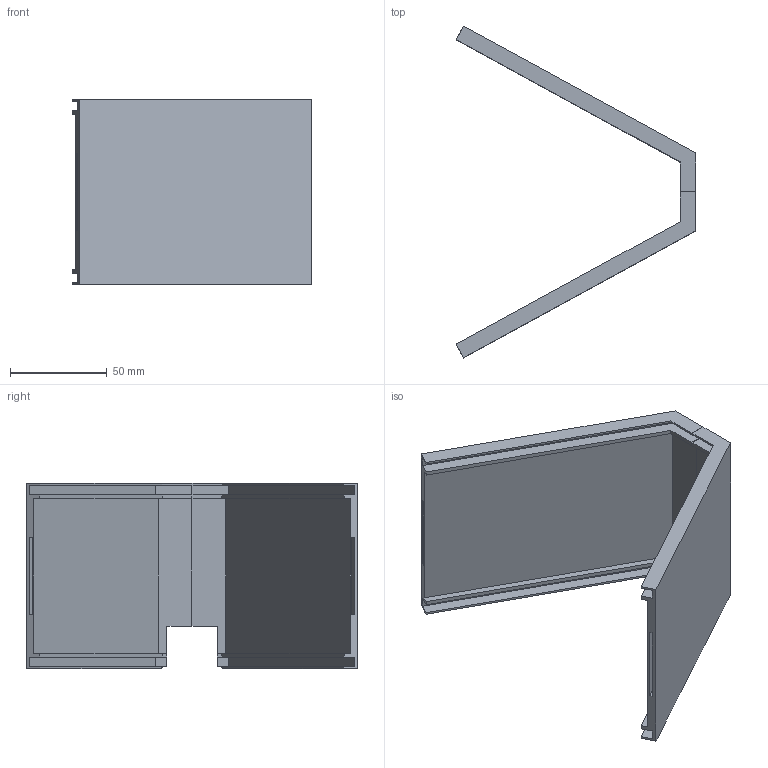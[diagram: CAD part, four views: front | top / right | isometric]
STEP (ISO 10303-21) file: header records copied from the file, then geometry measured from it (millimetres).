
FILE_DESCRIPTION(('STEP AP203'), '1');
FILE_NAME('ðåçîíàòîð 1', '', ('UNSPECIFIED'), ('UNSPECIFIED'), 'ASCON STEP Converter 1.3', 'ASCON Math Kernel', '');
FILE_SCHEMA(('CONFIG_CONTROL_DESIGN'));
Length unit declared in the file: millimetre
Bounding box: 123.7 x 171.39 x 96 mm (x, y, z)
Volume: 110829.1 mm3; surface area: 98651.4 mm2
Topology: 2 solids, 2 shells, 70 faces, 196 edges, 130 vertices
Faces by surface type: plane 68, cylinder 2
Entity records: 2824 total; most frequent: CARTESIAN_POINT 403, ORIENTED_EDGE 392, DIRECTION 338, EDGE_CURVE 196, LINE 192, VECTOR 192, VERTEX_POINT 130, FACE_BOUND 74
